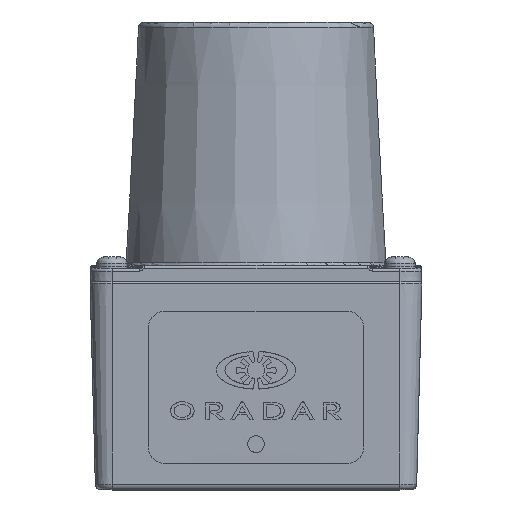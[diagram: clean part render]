
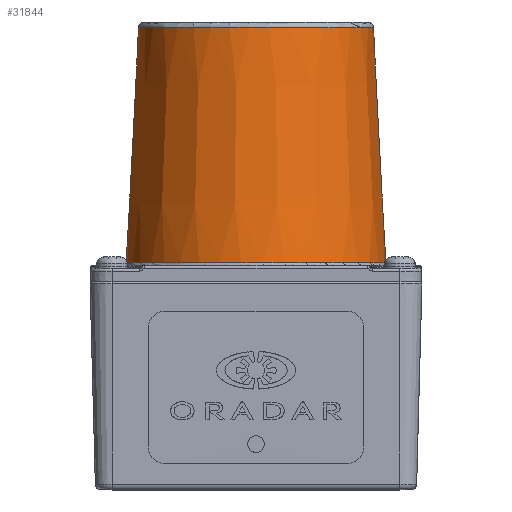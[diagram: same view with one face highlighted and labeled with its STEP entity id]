
A CAD part, top view. The second image highlights one B-rep face of the part: STEP entity #31844.
In plain terms, the highlighted conical face has half-angle 3 degrees and reference radius 22.359 mm.
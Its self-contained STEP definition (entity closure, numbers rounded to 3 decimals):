
#9642=CARTESIAN_POINT('',(14.444,14.684,-15.505));
#9659=CARTESIAN_POINT('',(12.622,57.262,-14.087));
#9683=CARTESIAN_POINT('',(0.,57.262,3.));
#9684=DIRECTION('',(0.,-1.,0.));
#9685=DIRECTION('',(0.594,0.,-0.804));
#9686=AXIS2_PLACEMENT_3D('',#9683,#9684,#9685);
#9688=CARTESIAN_POINT('',(0.,57.262,3.));
#9689=DIRECTION('',(0.,-1.,0.));
#9690=DIRECTION('',(1.,0.,0.));
#9691=AXIS2_PLACEMENT_3D('',#9688,#9689,#9690);
#9693=CARTESIAN_POINT('',(0.,57.262,3.));
#9694=DIRECTION('',(0.,-1.,0.));
#9695=DIRECTION('',(0.578,0.,0.816));
#9696=AXIS2_PLACEMENT_3D('',#9693,#9694,#9695);
#9698=CARTESIAN_POINT('',(0.,57.262,3.));
#9699=DIRECTION('',(0.,-1.,0.));
#9700=DIRECTION('',(-1.,0.,0.));
#9701=AXIS2_PLACEMENT_3D('',#9698,#9699,#9700);
#9703=DIRECTION('',(0.043,-0.999,-0.033));
#9704=VECTOR('',#9703,42.641);
#9705=CARTESIAN_POINT('',(12.622,57.262,-14.087));
#9706=LINE('',#9705,#9704);
#9707=DIRECTION('',(0.043,0.999,0.033));
#9708=VECTOR('',#9707,42.641);
#9709=CARTESIAN_POINT('',(-14.444,14.684,
-15.505));
#9710=LINE('',#9709,#9708);
#9711=CARTESIAN_POINT('',(0.,14.684,3.));
#9712=DIRECTION('',(0.,1.,0.));
#9713=DIRECTION('',(-0.615,0.,-0.788));
#9714=AXIS2_PLACEMENT_3D('',#9711,#9712,#9713);
#9716=CARTESIAN_POINT('',(0.,14.684,3.));
#9717=DIRECTION('',(0.,1.,0.));
#9718=DIRECTION('',(-1.,0.,0.));
#9719=AXIS2_PLACEMENT_3D('',#9716,#9717,#9718);
#9721=CARTESIAN_POINT('',(0.,14.684,3.));
#9722=DIRECTION('',(0.,1.,0.));
#9723=DIRECTION('',(-0.584,0.,0.812));
#9724=AXIS2_PLACEMENT_3D('',#9721,#9722,#9723);
#9726=CARTESIAN_POINT('',(0.,14.684,3.));
#9727=DIRECTION('',(0.,1.,0.));
#9728=DIRECTION('',(1.,0.,0.));
#9729=AXIS2_PLACEMENT_3D('',#9726,#9727,#9728);
#20076=VERTEX_POINT('',#9642);
#20077=VERTEX_POINT('',#9659);
#20078=CARTESIAN_POINT('',(-21.244,57.262,3.));
#20079=CARTESIAN_POINT('',(-12.622,57.262,
-14.087));
#20080=VERTEX_POINT('',#20078);
#20081=VERTEX_POINT('',#20079);
#20082=CARTESIAN_POINT('',(12.27,57.262,20.342));
#20083=VERTEX_POINT('',#20082);
#20084=CARTESIAN_POINT('',(21.244,57.262,3.));
#20085=VERTEX_POINT('',#20084);
#20086=CARTESIAN_POINT('',(23.475,14.684,3.));
#20087=VERTEX_POINT('',#20086);
#20088=CARTESIAN_POINT('',(-13.713,14.684,
22.053));
#20089=VERTEX_POINT('',#20088);
#20090=CARTESIAN_POINT('',(-23.475,14.684,3.));
#20091=VERTEX_POINT('',#20090);
#20092=CARTESIAN_POINT('',(-14.444,14.684,
-15.505));
#20093=VERTEX_POINT('',#20092);
#31822=CARTESIAN_POINT('',(0.,35.973,3.));
#31823=DIRECTION('',(0.,-1.,0.));
#31824=DIRECTION('',(-1.,0.,0.));
#31825=AXIS2_PLACEMENT_3D('',#31822,#31823,#31824);
#31826=CONICAL_SURFACE('',#31825,22.359,3.);
#31827=ORIENTED_EDGE('',*,*,#31815,.F.);
#31828=ORIENTED_EDGE('',*,*,#31813,.F.);
#31829=ORIENTED_EDGE('',*,*,#31811,.F.);
#31830=ORIENTED_EDGE('',*,*,#31809,.F.);
#31831=ORIENTED_EDGE('',*,*,#31755,.T.);
#31833=ORIENTED_EDGE('',*,*,#31832,.F.);
#31835=ORIENTED_EDGE('',*,*,#31834,.F.);
#31837=ORIENTED_EDGE('',*,*,#31836,.F.);
#31839=ORIENTED_EDGE('',*,*,#31838,.F.);
#31841=ORIENTED_EDGE('',*,*,#31840,.T.);
#31842=EDGE_LOOP('',(#31827,#31828,#31829,#31830,#31831,#31833,#31835,#31837,
#31839,#31841));
#31843=FACE_OUTER_BOUND('',#31842,.F.);
#31844=ADVANCED_FACE('',(#31843),#31826,.T.);
#9687=CIRCLE('',#9686,21.244);
#9692=CIRCLE('',#9691,21.244);
#9697=CIRCLE('',#9696,21.244);
#9702=CIRCLE('',#9701,21.244);
#9715=CIRCLE('',#9714,23.475);
#9720=CIRCLE('',#9719,23.475);
#9725=CIRCLE('',#9724,23.475);
#9730=CIRCLE('',#9729,23.475);
#31755=EDGE_CURVE('',#20077,#20076,#9706,.T.);
#31809=EDGE_CURVE('',#20077,#20085,#9687,.T.);
#31811=EDGE_CURVE('',#20085,#20083,#9692,.T.);
#31813=EDGE_CURVE('',#20083,#20080,#9697,.T.);
#31815=EDGE_CURVE('',#20080,#20081,#9702,.T.);
#31832=EDGE_CURVE('',#20087,#20076,#9730,.T.);
#31834=EDGE_CURVE('',#20089,#20087,#9725,.T.);
#31836=EDGE_CURVE('',#20091,#20089,#9720,.T.);
#31838=EDGE_CURVE('',#20093,#20091,#9715,.T.);
#31840=EDGE_CURVE('',#20093,#20081,#9710,.T.);
